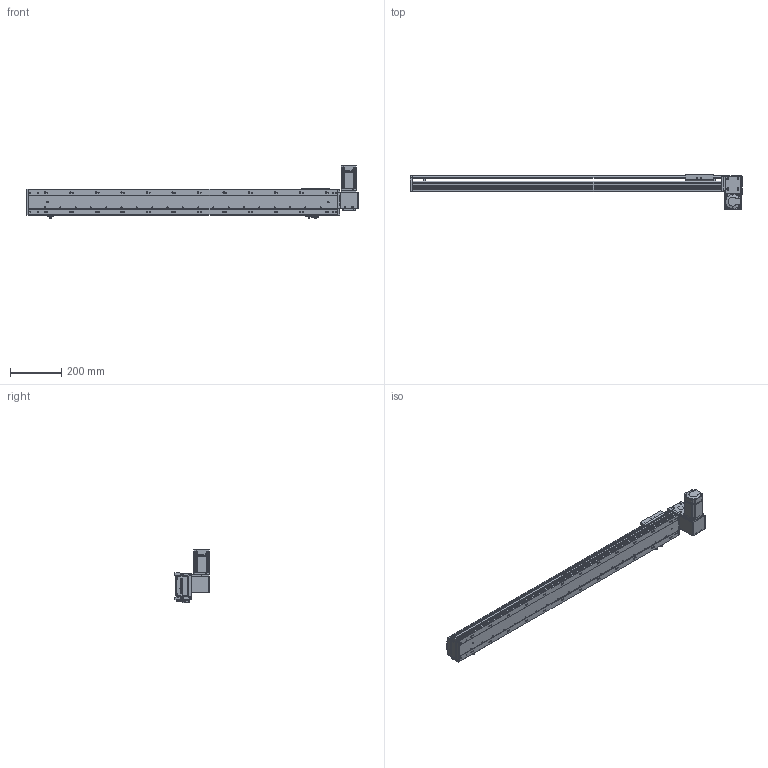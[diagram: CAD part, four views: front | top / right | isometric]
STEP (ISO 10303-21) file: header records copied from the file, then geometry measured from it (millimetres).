
FILE_DESCRIPTION (( 'STEP AP203' ), '1' );
FILE_NAME ('RY100-T-300-DR.SLDASM_1000.step', '2024-04-25T03:22:56', ( '盈信电脑' ), ( '东莞市道滘镇水果街19号' ), 'SwSTEP 2.0', 'SolidWorks 2016', '' );
FILE_SCHEMA (( 'CONFIG_CONTROL_DESIGN' ));
Length unit declared in the file: millimetre
Products named in the file (16): RY100-T左右折电机安装板; RY100-T肮祭謫翋盓傅釱; RY100俋离覜茼え; RY100-T-300-DR.SLDASM_1000; 1; RY100-T翋肮祭謫裔啣2; RY100-T-300-RK倰第菁釱_1000; RY80-T肮祭謫狟殏俋欶; RY100綴裔啣; RY100-T-300-RK倰第奻裔_1000; RY100-T翋肮祭謫裔啣; 滅袉蝶18-10; 侂狟200W萇儂; 覜茼ん672; RY100-T粣創揤踡裔; RY100-T肮祭謫臏賑輸
Assembly tree (19 placements, depth 3):
  RY100-T-300-DR.SLDASM_1000
    RY100-T-300-RK倰第菁釱_1000
    RY100-T-300-RK倰第奻裔_1000
    RY100-T肮祭謫臏賑輸
    RY100綴裔啣
    覜茼ん672  x3
    RY100俋离覜茼え
    RY100-T肮祭謫翋盓傅釱
    RY100-T左右折电机安装板
    侂狟200W萇儂
      1
    RY100-T粣創揤踡裔
    滅袉蝶18-10  x2
    RY100-T翋肮祭謫裔啣2  x2
    RY100-T翋肮祭謫裔啣
    RY80-T肮祭謫狟殏俋欶
Bounding box: 1300 x 135.5 x 209.7 mm (x, y, z)
Volume: 2635733 mm3; surface area: 1096652.8 mm2
Topology: 18 solids, 18 shells, 2329 faces, 6518 edges, 4238 vertices
Faces by surface type: plane 1233, cylinder 877, cone 141, bspline 78
Entity records: 75629 total; most frequent: CARTESIAN_POINT 18594, ORIENTED_EDGE 11772, DIRECTION 11162, EDGE_CURVE 5886, VERTEX_POINT 3874, VECTOR 3724, LINE 3724, AXIS2_PLACEMENT_3D 3719
